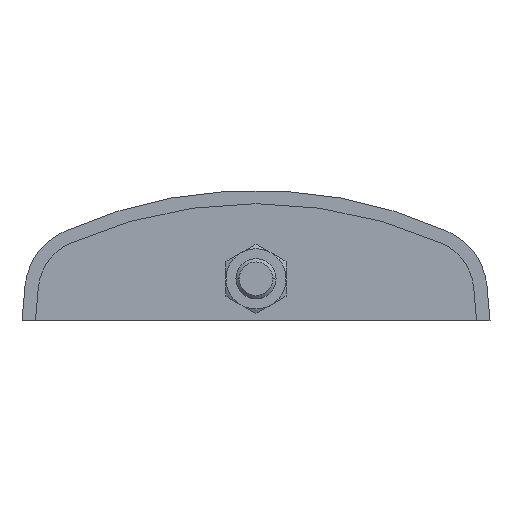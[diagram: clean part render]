
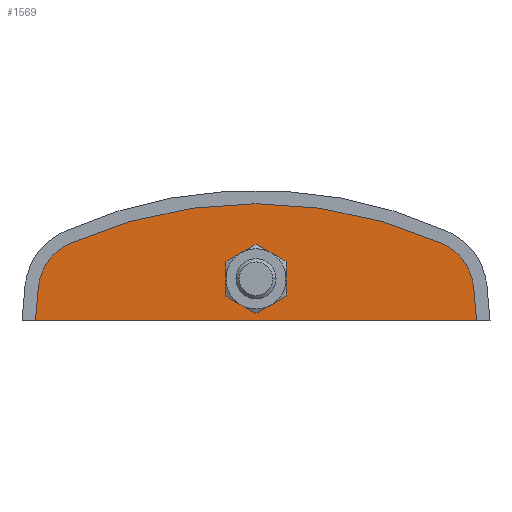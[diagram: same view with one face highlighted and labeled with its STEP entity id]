
A CAD part, top view. The second image highlights one B-rep face of the part: STEP entity #1569.
In plain terms, the highlighted planar face has unit normal (0, 0, 1).
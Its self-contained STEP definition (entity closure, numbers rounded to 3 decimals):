
#44 = ORIENTED_EDGE ( 'NONE', *, *, #2715, .T. ) ;
#48 = VERTEX_POINT ( 'NONE', #141 ) ;
#141 = CARTESIAN_POINT ( 'NONE',  ( 55.741, 17.952, 10. ) ) ;
#159 = CARTESIAN_POINT ( 'NONE',  ( 65.123, 4.752, 10. ) ) ;
#225 = VECTOR ( 'NONE', #736, 1000. ) ;
#226 = VERTEX_POINT ( 'NONE', #1475 ) ;
#262 = LINE ( 'NONE', #159, #2696 ) ;
#297 = VERTEX_POINT ( 'NONE', #1937 ) ;
#309 = AXIS2_PLACEMENT_3D ( 'NONE', #1831, #1608, #2321 ) ;
#389 = DIRECTION ( 'NONE',  ( 0., 0., -1. ) ) ;
#410 = EDGE_LOOP ( 'NONE', ( #44, #3103 ) ) ;
#470 = DIRECTION ( 'NONE',  ( -1., 0., 0. ) ) ;
#478 = AXIS2_PLACEMENT_3D ( 'NONE', #2047, #389, #1589 ) ;
#563 = VERTEX_POINT ( 'NONE', #2505 ) ;
#573 = VERTEX_POINT ( 'NONE', #1802 ) ;
#579 = VERTEX_POINT ( 'NONE', #3012 ) ;
#649 = CIRCLE ( 'NONE', #309, 136. ) ;
#655 = DIRECTION ( 'NONE',  ( -1., 0., 0. ) ) ;
#691 = ORIENTED_EDGE ( 'NONE', *, *, #2947, .T. ) ;
#728 = LINE ( 'NONE', #1329, #1152 ) ;
#734 = EDGE_CURVE ( 'NONE', #563, #48, #2567, .T. ) ;
#736 = DIRECTION ( 'NONE',  ( 1., 0., 0. ) ) ;
#757 = CARTESIAN_POINT ( 'NONE',  ( -65.985, -5.1, 10. ) ) ;
#798 = PLANE ( 'NONE',  #2822 ) ;
#837 = CIRCLE ( 'NONE', #478, 7.55 ) ;
#839 = ORIENTED_EDGE ( 'NONE', *, *, #2956, .T. ) ;
#845 = ORIENTED_EDGE ( 'NONE', *, *, #1971, .T. ) ;
#887 = CIRCLE ( 'NONE', #1108, 16. ) ;
#899 = LINE ( 'NONE', #2398, #225 ) ;
#1028 = CARTESIAN_POINT ( 'NONE',  ( 0., 7.4, 10. ) ) ;
#1040 = DIRECTION ( 'NONE',  ( 1., 0., 0. ) ) ;
#1108 = AXIS2_PLACEMENT_3D ( 'NONE', #2139, #1904, #470 ) ;
#1123 = DIRECTION ( 'NONE',  ( -0.087, 0.996, 0. ) ) ;
#1152 = VECTOR ( 'NONE', #2072, 1000. ) ;
#1185 = ORIENTED_EDGE ( 'NONE', *, *, #734, .T. ) ;
#1237 = VERTEX_POINT ( 'NONE', #2336 ) ;
#1295 = CARTESIAN_POINT ( 'NONE',  ( 49.184, 3.357, 10. ) ) ;
#1329 = CARTESIAN_POINT ( 'NONE',  ( -65.985, -5.1, 10. ) ) ;
#1475 = CARTESIAN_POINT ( 'NONE',  ( -55.741, 17.952, 10. ) ) ;
#1569 = ADVANCED_FACE ( 'NONE', ( #1763, #2473 ), #798, .T. ) ;
#1589 = DIRECTION ( 'NONE',  ( -1., 0., 0. ) ) ;
#1608 = DIRECTION ( 'NONE',  ( 0., 0., 1. ) ) ;
#1720 = DIRECTION ( 'NONE',  ( 0., 0., -1. ) ) ;
#1737 = DIRECTION ( 'NONE',  ( -1., 0., 0. ) ) ;
#1763 = FACE_BOUND ( 'NONE', #410, .T. ) ;
#1772 = EDGE_CURVE ( 'NONE', #1237, #563, #262, .T. ) ;
#1802 = CARTESIAN_POINT ( 'NONE',  ( 7.55, 7.4, 10. ) ) ;
#1831 = CARTESIAN_POINT ( 'NONE',  ( 0., -106.1, 10. ) ) ;
#1904 = DIRECTION ( 'NONE',  ( 0., 0., 1. ) ) ;
#1937 = CARTESIAN_POINT ( 'NONE',  ( -7.55, 7.4, 10. ) ) ;
#1971 = EDGE_CURVE ( 'NONE', #2749, #1237, #899, .T. ) ;
#1980 = DIRECTION ( 'NONE',  ( 0., 0., 1. ) ) ;
#2047 = CARTESIAN_POINT ( 'NONE',  ( 0., 7.4, 10. ) ) ;
#2072 = DIRECTION ( 'NONE',  ( -0.087, -0.996, 0. ) ) ;
#2085 = ORIENTED_EDGE ( 'NONE', *, *, #1772, .T. ) ;
#2131 = AXIS2_PLACEMENT_3D ( 'NONE', #2364, #2594, #655 ) ;
#2132 = AXIS2_PLACEMENT_3D ( 'NONE', #1028, #1720, #1737 ) ;
#2139 = CARTESIAN_POINT ( 'NONE',  ( -49.184, 3.357, 10. ) ) ;
#2321 = DIRECTION ( 'NONE',  ( -1., 0., 0. ) ) ;
#2336 = CARTESIAN_POINT ( 'NONE',  ( 65.985, -5.1, 10. ) ) ;
#2353 = ORIENTED_EDGE ( 'NONE', *, *, #2629, .T. ) ;
#2364 = CARTESIAN_POINT ( 'NONE',  ( 49.184, 3.357, 10. ) ) ;
#2398 = CARTESIAN_POINT ( 'NONE',  ( -70., -5.1, 10. ) ) ;
#2473 = FACE_OUTER_BOUND ( 'NONE', #2982, .T. ) ;
#2505 = CARTESIAN_POINT ( 'NONE',  ( 65.123, 4.752, 10. ) ) ;
#2567 = CIRCLE ( 'NONE', #2131, 16. ) ;
#2594 = DIRECTION ( 'NONE',  ( 0., 0., 1. ) ) ;
#2629 = EDGE_CURVE ( 'NONE', #226, #579, #887, .T. ) ;
#2696 = VECTOR ( 'NONE', #1123, 1000. ) ;
#2712 = CIRCLE ( 'NONE', #2132, 7.55 ) ;
#2715 = EDGE_CURVE ( 'NONE', #297, #573, #2712, .T. ) ;
#2749 = VERTEX_POINT ( 'NONE', #757 ) ;
#2822 = AXIS2_PLACEMENT_3D ( 'NONE', #1295, #1980, #1040 ) ;
#2947 = EDGE_CURVE ( 'NONE', #579, #2749, #728, .T. ) ;
#2956 = EDGE_CURVE ( 'NONE', #48, #226, #649, .T. ) ;
#2982 = EDGE_LOOP ( 'NONE', ( #845, #2085, #1185, #839, #2353, #691 ) ) ;
#2985 = EDGE_CURVE ( 'NONE', #573, #297, #837, .T. ) ;
#3012 = CARTESIAN_POINT ( 'NONE',  ( -65.123, 4.752, 10. ) ) ;
#3103 = ORIENTED_EDGE ( 'NONE', *, *, #2985, .T. ) ;
